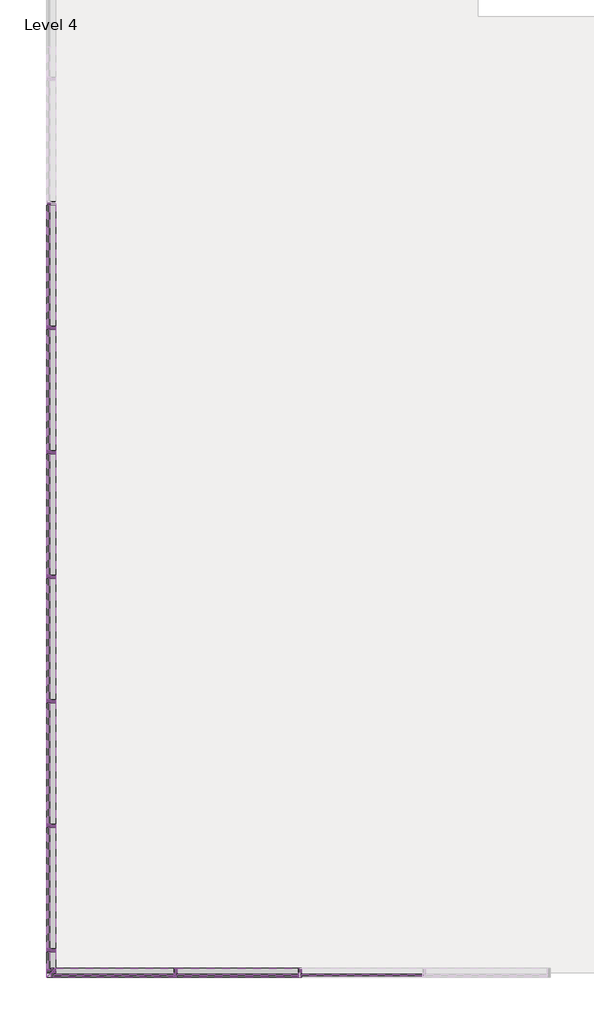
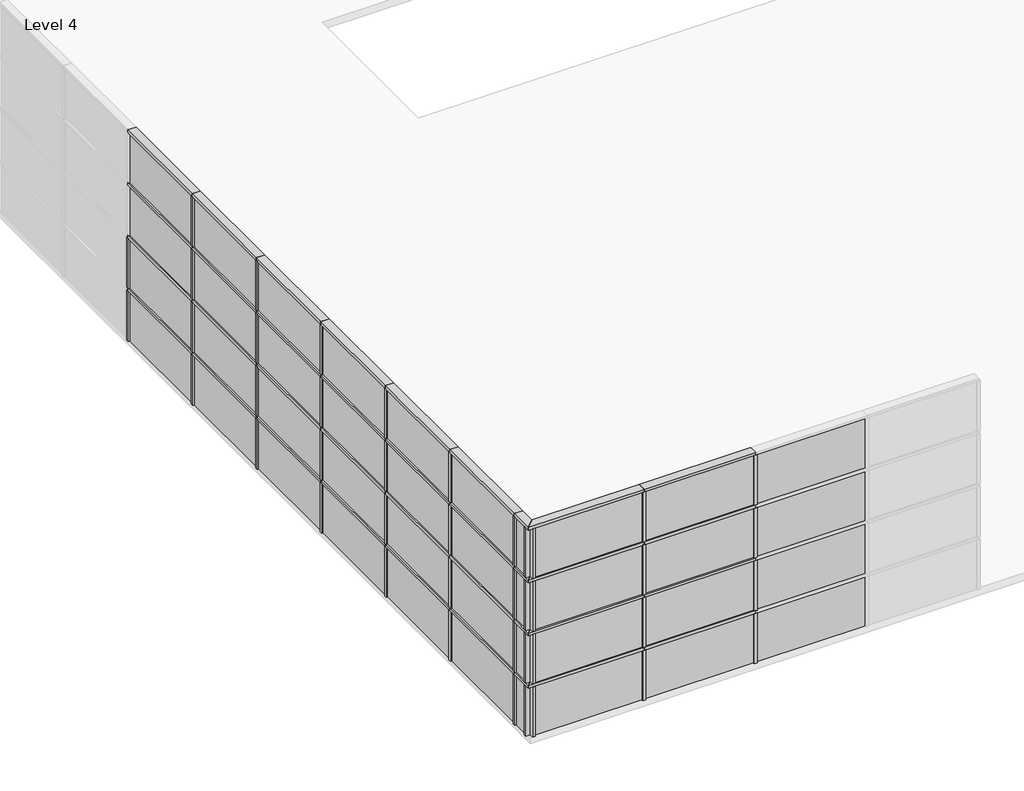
# One storey, part 1 of 5: 78 members, 40 plates.
"""IFC4 building model written with IfcOpenShell, lengths in millimetres."""

from ifc_helpers import new_model, si_unit, origin, place, context, project, spatial, transform, mapped, element, save
from components import rectangular_mullion_50_x_150mm_a053b0ca, rectangular_mullion_50_x_150mm_3a148f0f, rectangular_mullion_50_x_150mm_12a430f9, rectangular_mullion_50_x_150mm_cc09da6b, rectangular_mullion_50_x_150mm_947845bb, system_panel_glazed_751a585c, system_panel_glazed_08de6f5f, system_panel_glazed_9a47c754

model = new_model("IFC4")

# Units and contexts
model_context = context("Model", 3, world=origin())
ifc_project = project(units=[si_unit("LENGTHUNIT", "METRE", prefix="MILLI")], contexts=[model_context])

# Site, building, storey
site = spatial("IfcSite", under=ifc_project)
building = spatial("IfcBuilding", under=site)
storey = spatial("IfcBuildingStorey", under=building, Name="Level 4", Elevation=12000.0)

# Members
placement = place(None, origin())
rectangular_mullion_50_x_150mm_shape = rectangular_mullion_50_x_150mm_a053b0ca(model_context)
element("IfcMember", 1, ObjectType="Rectangular Mullion : 50 x 150mm", at=placement, inside=storey, context=model_context, shape_type="MappedRepresentation", body=[
    mapped(rectangular_mullion_50_x_150mm_shape, transform((-3587.173406, -21988.7417365, 12025.0), x_axis=(1.0, 0.0, 0.0), y_axis=(0.0, -1.0, 0.0), z_axis=(0.0, 0.0, -1.0))),
])
element("IfcMember", 2, ObjectType="Rectangular Mullion : 50 x 150mm", at=placement, inside=storey, context=model_context, shape_type="MappedRepresentation", body=[
    mapped(rectangular_mullion_50_x_150mm_shape, transform((-3587.173406, -21988.7417365, 13025.0), x_axis=(1.0, 0.0, 0.0), y_axis=(0.0, -1.0, 0.0), z_axis=(0.0, 0.0, -1.0))),
])
element("IfcMember", 3, ObjectType="Rectangular Mullion : 50 x 150mm", at=placement, inside=storey, context=model_context, shape_type="MappedRepresentation", body=[
    mapped(rectangular_mullion_50_x_150mm_shape, transform((-3587.173406, -21988.7417365, 14025.0), x_axis=(1.0, 0.0, 0.0), y_axis=(0.0, -1.0, 0.0), z_axis=(0.0, 0.0, -1.0))),
])
element("IfcMember", 4, ObjectType="Rectangular Mullion : 50 x 150mm", at=placement, inside=storey, context=model_context, shape_type="MappedRepresentation", body=[
    mapped(rectangular_mullion_50_x_150mm_shape, transform((-3587.173406, -21988.7417365, 15025.0), x_axis=(1.0, 0.0, 0.0), y_axis=(0.0, -1.0, 0.0), z_axis=(0.0, 0.0, -1.0))),
])
element("IfcMember", 5, ObjectType="Rectangular Mullion : 50 x 150mm", at=placement, inside=storey, context=model_context, shape_type="MappedRepresentation", body=[
    mapped(rectangular_mullion_50_x_150mm_shape, transform((-1587.173406, -21988.7417365, 12025.0), x_axis=(1.0, 0.0, 0.0), y_axis=(0.0, -1.0, 0.0), z_axis=(0.0, 0.0, -1.0))),
])
element("IfcMember", 6, ObjectType="Rectangular Mullion : 50 x 150mm", at=placement, inside=storey, context=model_context, shape_type="MappedRepresentation", body=[
    mapped(rectangular_mullion_50_x_150mm_shape, transform((-1587.173406, -21988.7417365, 13025.0), x_axis=(1.0, 0.0, 0.0), y_axis=(0.0, -1.0, 0.0), z_axis=(0.0, 0.0, -1.0))),
])
element("IfcMember", 7, ObjectType="Rectangular Mullion : 50 x 150mm", at=placement, inside=storey, context=model_context, shape_type="MappedRepresentation", body=[
    mapped(rectangular_mullion_50_x_150mm_shape, transform((-1587.173406, -21988.7417365, 14025.0), x_axis=(1.0, 0.0, 0.0), y_axis=(0.0, -1.0, 0.0), z_axis=(0.0, 0.0, -1.0))),
])
element("IfcMember", 8, ObjectType="Rectangular Mullion : 50 x 150mm", at=placement, inside=storey, context=model_context, shape_type="MappedRepresentation", body=[
    mapped(rectangular_mullion_50_x_150mm_shape, transform((-1587.173406, -21988.7417365, 15025.0), x_axis=(1.0, 0.0, 0.0), y_axis=(0.0, -1.0, 0.0), z_axis=(0.0, 0.0, -1.0))),
])
element("IfcMember", 9, ObjectType="Rectangular Mullion : 50 x 150mm", at=placement, inside=storey, context=model_context, shape_type="MappedRepresentation", body=[
    mapped(rectangular_mullion_50_x_150mm_shape, transform((-5587.173406, -9624.0160434, 12025.0), x_axis=(0.0, -1.0, 0.0), y_axis=(-1.0, 0.0, 0.0), z_axis=(0.0, 0.0, -1.0))),
])
element("IfcMember", 10, ObjectType="Rectangular Mullion : 50 x 150mm", at=placement, inside=storey, context=model_context, shape_type="MappedRepresentation", body=[
    mapped(rectangular_mullion_50_x_150mm_shape, transform((-5587.173406, -9624.0160434, 13025.0), x_axis=(0.0, -1.0, 0.0), y_axis=(-1.0, 0.0, 0.0), z_axis=(0.0, 0.0, -1.0))),
])
element("IfcMember", 11, ObjectType="Rectangular Mullion : 50 x 150mm", at=placement, inside=storey, context=model_context, shape_type="MappedRepresentation", body=[
    mapped(rectangular_mullion_50_x_150mm_shape, transform((-5587.173406, -11624.0160434, 12025.0), x_axis=(0.0, -1.0, 0.0), y_axis=(-1.0, 0.0, 0.0), z_axis=(0.0, 0.0, -1.0))),
])
element("IfcMember", 12, ObjectType="Rectangular Mullion : 50 x 150mm", at=placement, inside=storey, context=model_context, shape_type="MappedRepresentation", body=[
    mapped(rectangular_mullion_50_x_150mm_shape, transform((-5587.173406, -11624.0160434, 13025.0), x_axis=(0.0, -1.0, 0.0), y_axis=(-1.0, 0.0, 0.0), z_axis=(0.0, 0.0, -1.0))),
])
element("IfcMember", 13, ObjectType="Rectangular Mullion : 50 x 150mm", at=placement, inside=storey, context=model_context, shape_type="MappedRepresentation", body=[
    mapped(rectangular_mullion_50_x_150mm_shape, transform((-5587.173406, -11624.0160434, 14025.0), x_axis=(0.0, -1.0, 0.0), y_axis=(-1.0, 0.0, 0.0), z_axis=(0.0, 0.0, -1.0))),
])
element("IfcMember", 14, ObjectType="Rectangular Mullion : 50 x 150mm", at=placement, inside=storey, context=model_context, shape_type="MappedRepresentation", body=[
    mapped(rectangular_mullion_50_x_150mm_shape, transform((-5587.173406, -11624.0160434, 15025.0), x_axis=(0.0, -1.0, 0.0), y_axis=(-1.0, 0.0, 0.0), z_axis=(0.0, 0.0, -1.0))),
])
element("IfcMember", 15, ObjectType="Rectangular Mullion : 50 x 150mm", at=placement, inside=storey, context=model_context, shape_type="MappedRepresentation", body=[
    mapped(rectangular_mullion_50_x_150mm_shape, transform((-5587.173406, -13624.0160434, 12025.0), x_axis=(0.0, -1.0, 0.0), y_axis=(-1.0, 0.0, 0.0), z_axis=(0.0, 0.0, -0.9999999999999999))),
])
element("IfcMember", 16, ObjectType="Rectangular Mullion : 50 x 150mm", at=placement, inside=storey, context=model_context, shape_type="MappedRepresentation", body=[
    mapped(rectangular_mullion_50_x_150mm_shape, transform((-5587.173406, -13624.0160434, 13025.0), x_axis=(0.0, -1.0, 0.0), y_axis=(-1.0, 0.0, 0.0), z_axis=(0.0, 0.0, -1.0))),
])
element("IfcMember", 17, ObjectType="Rectangular Mullion : 50 x 150mm", at=placement, inside=storey, context=model_context, shape_type="MappedRepresentation", body=[
    mapped(rectangular_mullion_50_x_150mm_shape, transform((-5587.173406, -13624.0160434, 14025.0), x_axis=(0.0, -1.0, 0.0), y_axis=(-1.0, 0.0, 0.0), z_axis=(0.0, 0.0, -1.0))),
])
element("IfcMember", 18, ObjectType="Rectangular Mullion : 50 x 150mm", at=placement, inside=storey, context=model_context, shape_type="MappedRepresentation", body=[
    mapped(rectangular_mullion_50_x_150mm_shape, transform((-5587.173406, -13624.0160434, 15025.0), x_axis=(0.0, -1.0, 0.0), y_axis=(-1.0, 0.0, 0.0), z_axis=(0.0, 0.0, -1.0))),
])
element("IfcMember", 19, ObjectType="Rectangular Mullion : 50 x 150mm", at=placement, inside=storey, context=model_context, shape_type="MappedRepresentation", body=[
    mapped(rectangular_mullion_50_x_150mm_shape, transform((-5587.173406, -15624.0160434, 12025.0), x_axis=(0.0, -1.0, 0.0), y_axis=(-1.0, 0.0, 0.0), z_axis=(0.0, 0.0, -1.0))),
])
element("IfcMember", 20, ObjectType="Rectangular Mullion : 50 x 150mm", at=placement, inside=storey, context=model_context, shape_type="MappedRepresentation", body=[
    mapped(rectangular_mullion_50_x_150mm_shape, transform((-5587.173406, -15624.0160434, 13025.0), x_axis=(0.0, -1.0, 0.0), y_axis=(-1.0, 0.0, 0.0), z_axis=(0.0, 0.0, -1.0))),
])
element("IfcMember", 21, ObjectType="Rectangular Mullion : 50 x 150mm", at=placement, inside=storey, context=model_context, shape_type="MappedRepresentation", body=[
    mapped(rectangular_mullion_50_x_150mm_shape, transform((-5587.173406, -15624.0160434, 14025.0), x_axis=(0.0, -1.0, 0.0), y_axis=(-1.0, 0.0, 0.0), z_axis=(0.0, 0.0, -1.0))),
])
element("IfcMember", 22, ObjectType="Rectangular Mullion : 50 x 150mm", at=placement, inside=storey, context=model_context, shape_type="MappedRepresentation", body=[
    mapped(rectangular_mullion_50_x_150mm_shape, transform((-5587.173406, -15624.0160434, 15025.0), x_axis=(0.0, -1.0, 0.0), y_axis=(-1.0, 0.0, 0.0), z_axis=(0.0, 0.0, -1.0))),
])
element("IfcMember", 23, ObjectType="Rectangular Mullion : 50 x 150mm", at=placement, inside=storey, context=model_context, shape_type="MappedRepresentation", body=[
    mapped(rectangular_mullion_50_x_150mm_shape, transform((-5587.173406, -17624.0160434, 12025.0), x_axis=(0.0, -1.0, 0.0), y_axis=(-1.0, 0.0, 0.0), z_axis=(0.0, 0.0, -1.0))),
])
element("IfcMember", 24, ObjectType="Rectangular Mullion : 50 x 150mm", at=placement, inside=storey, context=model_context, shape_type="MappedRepresentation", body=[
    mapped(rectangular_mullion_50_x_150mm_shape, transform((-5587.173406, -17624.0160434, 13025.0), x_axis=(0.0, -1.0, 0.0), y_axis=(-1.0, 0.0, 0.0), z_axis=(0.0, 0.0, -1.0))),
])
element("IfcMember", 25, ObjectType="Rectangular Mullion : 50 x 150mm", at=placement, inside=storey, context=model_context, shape_type="MappedRepresentation", body=[
    mapped(rectangular_mullion_50_x_150mm_shape, transform((-5587.173406, -17624.0160434, 14025.0), x_axis=(0.0, -1.0, 0.0), y_axis=(-1.0, 0.0, 0.0), z_axis=(0.0, 0.0, -1.0))),
])
element("IfcMember", 26, ObjectType="Rectangular Mullion : 50 x 150mm", at=placement, inside=storey, context=model_context, shape_type="MappedRepresentation", body=[
    mapped(rectangular_mullion_50_x_150mm_shape, transform((-5587.173406, -17624.0160434, 15025.0), x_axis=(0.0, -1.0, 0.0), y_axis=(-1.0, 0.0, 0.0), z_axis=(0.0, 0.0, -1.0))),
])
element("IfcMember", 27, ObjectType="Rectangular Mullion : 50 x 150mm", at=placement, inside=storey, context=model_context, shape_type="MappedRepresentation", body=[
    mapped(rectangular_mullion_50_x_150mm_shape, transform((-5587.173406, -19624.0160434, 12025.0), x_axis=(0.0, -1.0, 0.0), y_axis=(-1.0, 0.0, 0.0), z_axis=(0.0, 0.0, -1.0))),
])
element("IfcMember", 28, ObjectType="Rectangular Mullion : 50 x 150mm", at=placement, inside=storey, context=model_context, shape_type="MappedRepresentation", body=[
    mapped(rectangular_mullion_50_x_150mm_shape, transform((-5587.173406, -19624.0160434, 13025.0), x_axis=(0.0, -1.0, 0.0), y_axis=(-1.0, 0.0, 0.0), z_axis=(0.0, 0.0, -1.0))),
])
element("IfcMember", 29, ObjectType="Rectangular Mullion : 50 x 150mm", at=placement, inside=storey, context=model_context, shape_type="MappedRepresentation", body=[
    mapped(rectangular_mullion_50_x_150mm_shape, transform((-5587.173406, -19624.0160434, 14025.0), x_axis=(0.0, -1.0, 0.0), y_axis=(-1.0, 0.0, 0.0), z_axis=(0.0, 0.0, -1.0))),
])
element("IfcMember", 30, ObjectType="Rectangular Mullion : 50 x 150mm", at=placement, inside=storey, context=model_context, shape_type="MappedRepresentation", body=[
    mapped(rectangular_mullion_50_x_150mm_shape, transform((-5587.173406, -19624.0160434, 15025.0), x_axis=(0.0, -1.0, 0.0), y_axis=(-1.0, 0.0, 0.0), z_axis=(0.0, 0.0, -1.0))),
])
element("IfcMember", 31, ObjectType="Rectangular Mullion : 50 x 150mm", at=placement, inside=storey, context=model_context, shape_type="MappedRepresentation", body=[
    mapped(rectangular_mullion_50_x_150mm_shape, transform((-5587.173406, -21624.0160434, 12025.0), x_axis=(0.0, -1.0, 0.0), y_axis=(-1.0, 0.0, 0.0), z_axis=(0.0, 0.0, -1.0))),
])
element("IfcMember", 32, ObjectType="Rectangular Mullion : 50 x 150mm", at=placement, inside=storey, context=model_context, shape_type="MappedRepresentation", body=[
    mapped(rectangular_mullion_50_x_150mm_shape, transform((-5587.173406, -21624.0160434, 13025.0), x_axis=(0.0, -1.0, 0.0), y_axis=(-1.0, 0.0, 0.0), z_axis=(0.0, 0.0, -1.0))),
])
element("IfcMember", 33, ObjectType="Rectangular Mullion : 50 x 150mm", at=placement, inside=storey, context=model_context, shape_type="MappedRepresentation", body=[
    mapped(rectangular_mullion_50_x_150mm_shape, transform((-5587.173406, -21624.0160434, 14025.0), x_axis=(0.0, -1.0, 0.0), y_axis=(-1.0, 0.0, 0.0), z_axis=(0.0, 0.0, -1.0))),
])
element("IfcMember", 34, ObjectType="Rectangular Mullion : 50 x 150mm", at=placement, inside=storey, context=model_context, shape_type="MappedRepresentation", body=[
    mapped(rectangular_mullion_50_x_150mm_shape, transform((-5587.173406, -21624.0160434, 15025.0), x_axis=(0.0, -1.0, 0.0), y_axis=(-1.0, 0.0, 0.0), z_axis=(0.0, 0.0, -1.0))),
])
rectangular_mullion_50_x_150mm_2_shape = rectangular_mullion_50_x_150mm_3a148f0f(model_context)
element("IfcMember", 35, ObjectType="Rectangular Mullion : 50 x 150mm", at=placement, inside=storey, context=model_context, shape_type="MappedRepresentation", body=[
    mapped(rectangular_mullion_50_x_150mm_2_shape, transform((-1587.173406, -21988.7417365, 13000.0), x_axis=(0.0, 0.0, 1.0), y_axis=(0.0, -1.0, 0.0), z_axis=(1.0, 0.0, 0.0))),
])
element("IfcMember", 36, ObjectType="Rectangular Mullion : 50 x 150mm", at=placement, inside=storey, context=model_context, shape_type="MappedRepresentation", body=[
    mapped(rectangular_mullion_50_x_150mm_2_shape, transform((-1587.173406, -21988.7417365, 14000.0), x_axis=(0.0, 0.0, 1.0), y_axis=(0.0, -1.0, 0.0), z_axis=(1.0, 0.0, 0.0))),
])
element("IfcMember", 37, ObjectType="Rectangular Mullion : 50 x 150mm", at=placement, inside=storey, context=model_context, shape_type="MappedRepresentation", body=[
    mapped(rectangular_mullion_50_x_150mm_2_shape, transform((-1587.173406, -21988.7417365, 15000.0), x_axis=(0.0, 0.0, 1.0), y_axis=(0.0, -1.0, 0.0), z_axis=(1.0, 0.0, 0.0))),
])
element("IfcMember", 38, ObjectType="Rectangular Mullion : 50 x 150mm", at=placement, inside=storey, context=model_context, shape_type="MappedRepresentation", body=[
    mapped(rectangular_mullion_50_x_150mm_2_shape, transform((-1587.173406, -21988.7417365, 16000.0), x_axis=(0.0, 0.0, 1.0), y_axis=(0.0, -1.0, 0.0), z_axis=(1.0, 0.0, 0.0))),
])
element("IfcMember", 39, ObjectType="Rectangular Mullion : 50 x 150mm", at=placement, inside=storey, context=model_context, shape_type="MappedRepresentation", body=[
    mapped(rectangular_mullion_50_x_150mm_2_shape, transform((-5587.173406, -11624.0160434, 13000.0), x_axis=(0.0, 0.0, 1.0), y_axis=(-1.0, 0.0, 0.0), z_axis=(0.0, -1.0, 0.0))),
])
element("IfcMember", 40, ObjectType="Rectangular Mullion : 50 x 150mm", at=placement, inside=storey, context=model_context, shape_type="MappedRepresentation", body=[
    mapped(rectangular_mullion_50_x_150mm_2_shape, transform((-5587.173406, -13624.0160434, 13000.0), x_axis=(0.0, 0.0, 1.0), y_axis=(-1.0, 0.0, 0.0), z_axis=(0.0, -1.0, 0.0))),
])
element("IfcMember", 41, ObjectType="Rectangular Mullion : 50 x 150mm", at=placement, inside=storey, context=model_context, shape_type="MappedRepresentation", body=[
    mapped(rectangular_mullion_50_x_150mm_2_shape, transform((-5587.173406, -15624.0160434, 13000.0), x_axis=(0.0, 0.0, 1.0), y_axis=(-1.0, 0.0, 0.0), z_axis=(0.0, -1.0, 0.0))),
])
element("IfcMember", 42, ObjectType="Rectangular Mullion : 50 x 150mm", at=placement, inside=storey, context=model_context, shape_type="MappedRepresentation", body=[
    mapped(rectangular_mullion_50_x_150mm_2_shape, transform((-5587.173406, -17624.0160434, 13000.0), x_axis=(0.0, 0.0, 1.0), y_axis=(-1.0, 0.0, 0.0), z_axis=(0.0, -1.0, 0.0))),
])
element("IfcMember", 43, ObjectType="Rectangular Mullion : 50 x 150mm", at=placement, inside=storey, context=model_context, shape_type="MappedRepresentation", body=[
    mapped(rectangular_mullion_50_x_150mm_2_shape, transform((-5587.173406, -19624.0160434, 13000.0), x_axis=(0.0, 0.0, 1.0), y_axis=(-1.0, 0.0, 0.0), z_axis=(0.0, -1.0, 0.0))),
])
element("IfcMember", 44, ObjectType="Rectangular Mullion : 50 x 150mm", at=placement, inside=storey, context=model_context, shape_type="MappedRepresentation", body=[
    mapped(rectangular_mullion_50_x_150mm_2_shape, transform((-5587.173406, -21624.0160434, 13000.0), x_axis=(0.0, 0.0, 1.0), y_axis=(-1.0, 0.0, 0.0), z_axis=(0.0, -1.0, 0.0))),
])
element("IfcMember", 45, ObjectType="Rectangular Mullion : 50 x 150mm", at=placement, inside=storey, context=model_context, shape_type="MappedRepresentation", body=[
    mapped(rectangular_mullion_50_x_150mm_2_shape, transform((-5587.173406, -11624.0160434, 14000.0), x_axis=(0.0, 0.0, 1.0), y_axis=(-1.0, 0.0, 0.0), z_axis=(0.0, -1.0, 0.0))),
])
element("IfcMember", 46, ObjectType="Rectangular Mullion : 50 x 150mm", at=placement, inside=storey, context=model_context, shape_type="MappedRepresentation", body=[
    mapped(rectangular_mullion_50_x_150mm_2_shape, transform((-5587.173406, -13624.0160434, 14000.0), x_axis=(0.0, 0.0, 1.0), y_axis=(-1.0, 0.0, 0.0), z_axis=(0.0, -1.0, 0.0))),
])
element("IfcMember", 47, ObjectType="Rectangular Mullion : 50 x 150mm", at=placement, inside=storey, context=model_context, shape_type="MappedRepresentation", body=[
    mapped(rectangular_mullion_50_x_150mm_2_shape, transform((-5587.173406, -15624.0160434, 14000.0), x_axis=(0.0, 0.0, 1.0), y_axis=(-1.0, 0.0, 0.0), z_axis=(0.0, -1.0, 0.0))),
])
element("IfcMember", 48, ObjectType="Rectangular Mullion : 50 x 150mm", at=placement, inside=storey, context=model_context, shape_type="MappedRepresentation", body=[
    mapped(rectangular_mullion_50_x_150mm_2_shape, transform((-5587.173406, -17624.0160434, 14000.0), x_axis=(0.0, 0.0, 1.0), y_axis=(-1.0, 0.0, 0.0), z_axis=(0.0, -1.0, 0.0))),
])
element("IfcMember", 49, ObjectType="Rectangular Mullion : 50 x 150mm", at=placement, inside=storey, context=model_context, shape_type="MappedRepresentation", body=[
    mapped(rectangular_mullion_50_x_150mm_2_shape, transform((-5587.173406, -19624.0160434, 14000.0), x_axis=(0.0, 0.0, 1.0), y_axis=(-1.0, 0.0, 0.0), z_axis=(0.0, -1.0, 0.0))),
])
element("IfcMember", 50, ObjectType="Rectangular Mullion : 50 x 150mm", at=placement, inside=storey, context=model_context, shape_type="MappedRepresentation", body=[
    mapped(rectangular_mullion_50_x_150mm_2_shape, transform((-5587.173406, -21624.0160434, 14000.0), x_axis=(0.0, 0.0, 1.0), y_axis=(-1.0, 0.0, 0.0), z_axis=(0.0, -1.0, 0.0))),
])
element("IfcMember", 51, ObjectType="Rectangular Mullion : 50 x 150mm", at=placement, inside=storey, context=model_context, shape_type="MappedRepresentation", body=[
    mapped(rectangular_mullion_50_x_150mm_2_shape, transform((-5587.173406, -11624.0160434, 15000.0), x_axis=(0.0, 0.0, 1.0), y_axis=(-1.0, 0.0, 0.0), z_axis=(0.0, -1.0, 0.0))),
])
element("IfcMember", 52, ObjectType="Rectangular Mullion : 50 x 150mm", at=placement, inside=storey, context=model_context, shape_type="MappedRepresentation", body=[
    mapped(rectangular_mullion_50_x_150mm_2_shape, transform((-5587.173406, -13624.0160434, 15000.0), x_axis=(0.0, 0.0, 1.0), y_axis=(-1.0, 0.0, 0.0), z_axis=(0.0, -1.0, 0.0))),
])
element("IfcMember", 53, ObjectType="Rectangular Mullion : 50 x 150mm", at=placement, inside=storey, context=model_context, shape_type="MappedRepresentation", body=[
    mapped(rectangular_mullion_50_x_150mm_2_shape, transform((-5587.173406, -15624.0160434, 15000.0), x_axis=(0.0, 0.0, 1.0), y_axis=(-1.0, 0.0, 0.0), z_axis=(0.0, -1.0, 0.0))),
])
element("IfcMember", 54, ObjectType="Rectangular Mullion : 50 x 150mm", at=placement, inside=storey, context=model_context, shape_type="MappedRepresentation", body=[
    mapped(rectangular_mullion_50_x_150mm_2_shape, transform((-5587.173406, -17624.0160434, 15000.0), x_axis=(0.0, 0.0, 1.0), y_axis=(-1.0, 0.0, 0.0), z_axis=(0.0, -1.0, 0.0))),
])
element("IfcMember", 55, ObjectType="Rectangular Mullion : 50 x 150mm", at=placement, inside=storey, context=model_context, shape_type="MappedRepresentation", body=[
    mapped(rectangular_mullion_50_x_150mm_2_shape, transform((-5587.173406, -19624.0160434, 15000.0), x_axis=(0.0, 0.0, 1.0), y_axis=(-1.0, 0.0, 0.0), z_axis=(0.0, -1.0, 0.0))),
])
element("IfcMember", 56, ObjectType="Rectangular Mullion : 50 x 150mm", at=placement, inside=storey, context=model_context, shape_type="MappedRepresentation", body=[
    mapped(rectangular_mullion_50_x_150mm_2_shape, transform((-5587.173406, -21624.0160434, 15000.0), x_axis=(0.0, 0.0, 1.0), y_axis=(-1.0, 0.0, 0.0), z_axis=(0.0, -1.0, 0.0))),
])
element("IfcMember", 57, ObjectType="Rectangular Mullion : 50 x 150mm", at=placement, inside=storey, context=model_context, shape_type="MappedRepresentation", body=[
    mapped(rectangular_mullion_50_x_150mm_2_shape, transform((-5587.173406, -11624.0160434, 16000.0), x_axis=(0.0, 0.0, 1.0), y_axis=(-1.0, 0.0, 0.0), z_axis=(0.0, -1.0, 0.0))),
])
element("IfcMember", 58, ObjectType="Rectangular Mullion : 50 x 150mm", at=placement, inside=storey, context=model_context, shape_type="MappedRepresentation", body=[
    mapped(rectangular_mullion_50_x_150mm_2_shape, transform((-5587.173406, -13624.0160434, 16000.0), x_axis=(0.0, 0.0, 1.0), y_axis=(-1.0, 0.0, 0.0), z_axis=(0.0, -1.0, 0.0))),
])
element("IfcMember", 59, ObjectType="Rectangular Mullion : 50 x 150mm", at=placement, inside=storey, context=model_context, shape_type="MappedRepresentation", body=[
    mapped(rectangular_mullion_50_x_150mm_2_shape, transform((-5587.173406, -15624.0160434, 16000.0), x_axis=(0.0, 0.0, 1.0), y_axis=(-1.0, 0.0, 0.0), z_axis=(0.0, -1.0, 0.0))),
])
element("IfcMember", 60, ObjectType="Rectangular Mullion : 50 x 150mm", at=placement, inside=storey, context=model_context, shape_type="MappedRepresentation", body=[
    mapped(rectangular_mullion_50_x_150mm_2_shape, transform((-5587.173406, -17624.0160434, 16000.0), x_axis=(0.0, 0.0, 1.0), y_axis=(-1.0, 0.0, 0.0), z_axis=(0.0, -1.0, 0.0))),
])
element("IfcMember", 61, ObjectType="Rectangular Mullion : 50 x 150mm", at=placement, inside=storey, context=model_context, shape_type="MappedRepresentation", body=[
    mapped(rectangular_mullion_50_x_150mm_2_shape, transform((-5587.173406, -19624.0160434, 16000.0), x_axis=(0.0, 0.0, 1.0), y_axis=(-1.0, 0.0, 0.0), z_axis=(0.0, -1.0, 0.0))),
])
element("IfcMember", 62, ObjectType="Rectangular Mullion : 50 x 150mm", at=placement, inside=storey, context=model_context, shape_type="MappedRepresentation", body=[
    mapped(rectangular_mullion_50_x_150mm_2_shape, transform((-5587.173406, -21624.0160434, 16000.0), x_axis=(0.0, 0.0, 1.0), y_axis=(-1.0, 0.0, 0.0), z_axis=(0.0, -1.0, 0.0))),
])
rectangular_mullion_50_x_150mm_3_shape = rectangular_mullion_50_x_150mm_12a430f9(model_context)
element("IfcMember", 63, ObjectType="Rectangular Mullion : 50 x 150mm", at=placement, inside=storey, context=model_context, shape_type="MappedRepresentation", body=[
    mapped(rectangular_mullion_50_x_150mm_3_shape, transform((-5587.173406, -21988.7417365, 12975.0), x_axis=(-1.0, 0.0, 0.0), y_axis=(0.0, -1.0, 0.0), z_axis=(0.0, 0.0, 1.0))),
])
element("IfcMember", 64, ObjectType="Rectangular Mullion : 50 x 150mm", at=placement, inside=storey, context=model_context, shape_type="MappedRepresentation", body=[
    mapped(rectangular_mullion_50_x_150mm_3_shape, transform((-5587.173406, -21988.7417365, 13975.0), x_axis=(-1.0, 0.0, 0.0), y_axis=(0.0, -1.0, 0.0), z_axis=(0.0, 0.0, 1.0))),
])
element("IfcMember", 65, ObjectType="Rectangular Mullion : 50 x 150mm", at=placement, inside=storey, context=model_context, shape_type="MappedRepresentation", body=[
    mapped(rectangular_mullion_50_x_150mm_3_shape, transform((-5587.173406, -21988.7417365, 14975.0), x_axis=(-1.0, 0.0, 0.0), y_axis=(0.0, -1.0, 0.0), z_axis=(0.0, 0.0, 1.0))),
])
element("IfcMember", 66, ObjectType="Rectangular Mullion : 50 x 150mm", at=placement, inside=storey, context=model_context, shape_type="MappedRepresentation", body=[
    mapped(rectangular_mullion_50_x_150mm_3_shape, transform((-5587.173406, -21988.7417365, 15975.0), x_axis=(-1.0, 0.0, 0.0), y_axis=(0.0, -1.0, 0.0), z_axis=(0.0, 0.0, 1.0))),
])
element("IfcMember", 67, ObjectType="Rectangular Mullion : 50 x 150mm", at=placement, inside=storey, context=model_context, shape_type="MappedRepresentation", body=[
    mapped(rectangular_mullion_50_x_150mm_3_shape, transform((-5587.173406, -21988.7417365, 12025.0), x_axis=(0.0, -1.0, 0.0), y_axis=(-1.0, 0.0, 0.0), z_axis=(0.0, 0.0, -1.0))),
])
element("IfcMember", 68, ObjectType="Rectangular Mullion : 50 x 150mm", at=placement, inside=storey, context=model_context, shape_type="MappedRepresentation", body=[
    mapped(rectangular_mullion_50_x_150mm_3_shape, transform((-5587.173406, -21988.7417365, 13025.0), x_axis=(0.0, -1.0, 0.0), y_axis=(-1.0, 0.0, 0.0), z_axis=(0.0, 0.0, -1.0))),
])
element("IfcMember", 69, ObjectType="Rectangular Mullion : 50 x 150mm", at=placement, inside=storey, context=model_context, shape_type="MappedRepresentation", body=[
    mapped(rectangular_mullion_50_x_150mm_3_shape, transform((-5587.173406, -21988.7417365, 14025.0), x_axis=(0.0, -1.0, 0.0), y_axis=(-1.0, 0.0, 0.0), z_axis=(0.0, 0.0, -1.0))),
])
element("IfcMember", 70, ObjectType="Rectangular Mullion : 50 x 150mm", at=placement, inside=storey, context=model_context, shape_type="MappedRepresentation", body=[
    mapped(rectangular_mullion_50_x_150mm_3_shape, transform((-5587.173406, -21988.7417365, 15025.0), x_axis=(0.0, -1.0, 0.0), y_axis=(-1.0, 0.0, 0.0), z_axis=(0.0, 0.0, -1.0))),
])
rectangular_mullion_50_x_150mm_4_shape = rectangular_mullion_50_x_150mm_cc09da6b(model_context)
element("IfcMember", 71, ObjectType="Rectangular Mullion : 50 x 150mm", at=placement, inside=storey, context=model_context, shape_type="MappedRepresentation", body=[
    mapped(rectangular_mullion_50_x_150mm_4_shape, transform((-5587.173406, -21988.7417365, 13000.0), x_axis=(0.0, 0.0, 1.0), y_axis=(-1.0, 0.0, 0.0), z_axis=(0.0, -1.0, 0.0))),
])
element("IfcMember", 72, ObjectType="Rectangular Mullion : 50 x 150mm", at=placement, inside=storey, context=model_context, shape_type="MappedRepresentation", body=[
    mapped(rectangular_mullion_50_x_150mm_4_shape, transform((-5587.173406, -21988.7417365, 14000.0), x_axis=(0.0, 0.0, 1.0), y_axis=(-1.0, 0.0, 0.0), z_axis=(0.0, -1.0, 0.0))),
])
element("IfcMember", 73, ObjectType="Rectangular Mullion : 50 x 150mm", at=placement, inside=storey, context=model_context, shape_type="MappedRepresentation", body=[
    mapped(rectangular_mullion_50_x_150mm_4_shape, transform((-5587.173406, -21988.7417365, 15000.0), x_axis=(0.0, 0.0, 1.0), y_axis=(-1.0, 0.0, 0.0), z_axis=(0.0, -1.0, 0.0))),
])
element("IfcMember", 74, ObjectType="Rectangular Mullion : 50 x 150mm", at=placement, inside=storey, context=model_context, shape_type="MappedRepresentation", body=[
    mapped(rectangular_mullion_50_x_150mm_4_shape, transform((-5587.173406, -21988.7417365, 16000.0), x_axis=(0.0, 0.0, 1.0), y_axis=(-1.0, 0.0, 0.0), z_axis=(0.0, -1.0, 0.0))),
])
rectangular_mullion_50_x_150mm_5_shape = rectangular_mullion_50_x_150mm_947845bb(model_context)
element("IfcMember", 75, ObjectType="Rectangular Mullion : 50 x 150mm", at=placement, inside=storey, context=model_context, shape_type="MappedRepresentation", body=[
    mapped(rectangular_mullion_50_x_150mm_5_shape, transform((-3587.173406, -21988.7417365, 13000.0), x_axis=(0.0, 0.0, 1.0), y_axis=(0.0, -1.0, 0.0), z_axis=(1.0, 0.0, 0.0))),
])
element("IfcMember", 76, ObjectType="Rectangular Mullion : 50 x 150mm", at=placement, inside=storey, context=model_context, shape_type="MappedRepresentation", body=[
    mapped(rectangular_mullion_50_x_150mm_5_shape, transform((-3587.173406, -21988.7417365, 14000.0), x_axis=(0.0, 0.0, 1.0), y_axis=(0.0, -1.0, 0.0), z_axis=(1.0, 0.0, 0.0))),
])
element("IfcMember", 77, ObjectType="Rectangular Mullion : 50 x 150mm", at=placement, inside=storey, context=model_context, shape_type="MappedRepresentation", body=[
    mapped(rectangular_mullion_50_x_150mm_5_shape, transform((-3587.173406, -21988.7417365, 15000.0), x_axis=(0.0, 0.0, 1.0), y_axis=(0.0, -1.0, 0.0), z_axis=(1.0, 0.0, 0.0))),
])
element("IfcMember", 78, ObjectType="Rectangular Mullion : 50 x 150mm", at=placement, inside=storey, context=model_context, shape_type="MappedRepresentation", body=[
    mapped(rectangular_mullion_50_x_150mm_5_shape, transform((-3587.173406, -21988.7417365, 16000.0), x_axis=(0.0, 0.0, 1.0), y_axis=(0.0, -1.0, 0.0), z_axis=(1.0, 0.0, 0.0))),
])

# Plates
system_panel_glazed_shape = system_panel_glazed_751a585c(model_context)
element("IfcPlate", 79, ObjectType="System Panel : Glazed", at=placement, inside=storey, context=model_context, shape_type="MappedRepresentation", body=[
    mapped(system_panel_glazed_shape, transform((-5537.173406, -21988.7417365, 12500.0), x_axis=(0.0, 0.0, 1.0), y_axis=(0.0, -1.0, 0.0), z_axis=(1.0, 0.0, 0.0))),
])
element("IfcPlate", 80, ObjectType="System Panel : Glazed", at=placement, inside=storey, context=model_context, shape_type="MappedRepresentation", body=[
    mapped(system_panel_glazed_shape, transform((-5537.173406, -21988.7417365, 13500.0), x_axis=(0.0, 0.0, 1.0), y_axis=(0.0, -1.0, 0.0), z_axis=(1.0, 0.0, 0.0))),
])
element("IfcPlate", 81, ObjectType="System Panel : Glazed", at=placement, inside=storey, context=model_context, shape_type="MappedRepresentation", body=[
    mapped(system_panel_glazed_shape, transform((-5537.173406, -21988.7417365, 14500.0), x_axis=(0.0, 0.0, 1.0), y_axis=(0.0, -1.0, 0.0), z_axis=(1.0, 0.0, 0.0))),
])
element("IfcPlate", 82, ObjectType="System Panel : Glazed", at=placement, inside=storey, context=model_context, shape_type="MappedRepresentation", body=[
    mapped(system_panel_glazed_shape, transform((-5537.173406, -21988.7417365, 15500.0), x_axis=(0.0, 0.0, 1.0), y_axis=(0.0, -1.0, 0.0), z_axis=(1.0, 0.0, 0.0))),
])
system_panel_glazed_2_shape = system_panel_glazed_08de6f5f(model_context)
element("IfcPlate", 83, ObjectType="System Panel : Glazed", at=placement, inside=storey, context=model_context, shape_type="MappedRepresentation", body=[
    mapped(system_panel_glazed_2_shape, transform((-5587.173406, -9649.0160434, 12500.0), x_axis=(0.0, 0.0, 1.0), y_axis=(-1.0, 0.0, 0.0), z_axis=(0.0, -1.0, 0.0))),
])
element("IfcPlate", 84, ObjectType="System Panel : Glazed", at=placement, inside=storey, context=model_context, shape_type="MappedRepresentation", body=[
    mapped(system_panel_glazed_2_shape, transform((-5587.173406, -11649.0160434, 12500.0), x_axis=(0.0, 0.0, 1.0), y_axis=(-1.0, 0.0, 0.0), z_axis=(0.0, -1.0, 0.0))),
])
element("IfcPlate", 85, ObjectType="System Panel : Glazed", at=placement, inside=storey, context=model_context, shape_type="MappedRepresentation", body=[
    mapped(system_panel_glazed_2_shape, transform((-5587.173406, -13649.0160434, 12500.0), x_axis=(0.0, 0.0, 1.0), y_axis=(-1.0, 0.0, 0.0), z_axis=(0.0, -1.0, 0.0))),
])
element("IfcPlate", 86, ObjectType="System Panel : Glazed", at=placement, inside=storey, context=model_context, shape_type="MappedRepresentation", body=[
    mapped(system_panel_glazed_2_shape, transform((-5587.173406, -15649.0160434, 12500.0), x_axis=(0.0, 0.0, 1.0), y_axis=(-1.0, 0.0, 0.0), z_axis=(0.0, -1.0, 0.0))),
])
element("IfcPlate", 87, ObjectType="System Panel : Glazed", at=placement, inside=storey, context=model_context, shape_type="MappedRepresentation", body=[
    mapped(system_panel_glazed_2_shape, transform((-5587.173406, -17649.0160434, 12500.0), x_axis=(0.0, 0.0, 1.0), y_axis=(-1.0, 0.0, 0.0), z_axis=(0.0, -1.0, 0.0))),
])
element("IfcPlate", 88, ObjectType="System Panel : Glazed", at=placement, inside=storey, context=model_context, shape_type="MappedRepresentation", body=[
    mapped(system_panel_glazed_2_shape, transform((-5587.173406, -19649.0160434, 12500.0), x_axis=(0.0, 0.0, 1.0), y_axis=(-1.0, 0.0, 0.0), z_axis=(0.0, -1.0, 0.0))),
])
element("IfcPlate", 89, ObjectType="System Panel : Glazed", at=placement, inside=storey, context=model_context, shape_type="MappedRepresentation", body=[
    mapped(system_panel_glazed_2_shape, transform((-5587.173406, -9649.0160434, 13500.0), x_axis=(0.0, 0.0, 1.0), y_axis=(-1.0, 0.0, 0.0), z_axis=(0.0, -1.0, 0.0))),
])
element("IfcPlate", 90, ObjectType="System Panel : Glazed", at=placement, inside=storey, context=model_context, shape_type="MappedRepresentation", body=[
    mapped(system_panel_glazed_2_shape, transform((-5587.173406, -11649.0160434, 13500.0), x_axis=(0.0, 0.0, 1.0), y_axis=(-1.0, 0.0, 0.0), z_axis=(0.0, -1.0, 0.0))),
])
element("IfcPlate", 91, ObjectType="System Panel : Glazed", at=placement, inside=storey, context=model_context, shape_type="MappedRepresentation", body=[
    mapped(system_panel_glazed_2_shape, transform((-5587.173406, -13649.0160434, 13500.0), x_axis=(0.0, 0.0, 1.0), y_axis=(-1.0, 0.0, 0.0), z_axis=(0.0, -1.0, 0.0))),
])
element("IfcPlate", 92, ObjectType="System Panel : Glazed", at=placement, inside=storey, context=model_context, shape_type="MappedRepresentation", body=[
    mapped(system_panel_glazed_2_shape, transform((-5587.173406, -15649.0160434, 13500.0), x_axis=(0.0, 0.0, 1.0), y_axis=(-1.0, 0.0, 0.0), z_axis=(0.0, -1.0, 0.0))),
])
element("IfcPlate", 93, ObjectType="System Panel : Glazed", at=placement, inside=storey, context=model_context, shape_type="MappedRepresentation", body=[
    mapped(system_panel_glazed_2_shape, transform((-5587.173406, -17649.0160434, 13500.0), x_axis=(0.0, 0.0, 1.0), y_axis=(-1.0, 0.0, 0.0), z_axis=(0.0, -1.0, 0.0))),
])
element("IfcPlate", 94, ObjectType="System Panel : Glazed", at=placement, inside=storey, context=model_context, shape_type="MappedRepresentation", body=[
    mapped(system_panel_glazed_2_shape, transform((-5587.173406, -19649.0160434, 13500.0), x_axis=(0.0, 0.0, 1.0), y_axis=(-1.0, 0.0, 0.0), z_axis=(0.0, -1.0, 0.0))),
])
element("IfcPlate", 95, ObjectType="System Panel : Glazed", at=placement, inside=storey, context=model_context, shape_type="MappedRepresentation", body=[
    mapped(system_panel_glazed_2_shape, transform((-5587.173406, -9649.0160434, 14500.0), x_axis=(0.0, 0.0, 1.0), y_axis=(-1.0, 0.0, 0.0), z_axis=(0.0, -1.0, 0.0))),
])
element("IfcPlate", 96, ObjectType="System Panel : Glazed", at=placement, inside=storey, context=model_context, shape_type="MappedRepresentation", body=[
    mapped(system_panel_glazed_2_shape, transform((-5587.173406, -11649.0160434, 14500.0), x_axis=(0.0, 0.0, 1.0), y_axis=(-1.0, 0.0, 0.0), z_axis=(0.0, -1.0, 0.0))),
])
element("IfcPlate", 97, ObjectType="System Panel : Glazed", at=placement, inside=storey, context=model_context, shape_type="MappedRepresentation", body=[
    mapped(system_panel_glazed_2_shape, transform((-5587.173406, -13649.0160434, 14500.0), x_axis=(0.0, 0.0, 1.0), y_axis=(-1.0, 0.0, 0.0), z_axis=(0.0, -1.0, 0.0))),
])
element("IfcPlate", 98, ObjectType="System Panel : Glazed", at=placement, inside=storey, context=model_context, shape_type="MappedRepresentation", body=[
    mapped(system_panel_glazed_2_shape, transform((-5587.173406, -15649.0160434, 14500.0), x_axis=(0.0, 0.0, 1.0), y_axis=(-1.0, 0.0, 0.0), z_axis=(0.0, -1.0, 0.0))),
])
element("IfcPlate", 99, ObjectType="System Panel : Glazed", at=placement, inside=storey, context=model_context, shape_type="MappedRepresentation", body=[
    mapped(system_panel_glazed_2_shape, transform((-5587.173406, -17649.0160434, 14500.0), x_axis=(0.0, 0.0, 1.0), y_axis=(-1.0, 0.0, 0.0), z_axis=(0.0, -1.0, 0.0))),
])
element("IfcPlate", 100, ObjectType="System Panel : Glazed", at=placement, inside=storey, context=model_context, shape_type="MappedRepresentation", body=[
    mapped(system_panel_glazed_2_shape, transform((-5587.173406, -19649.0160434, 14500.0), x_axis=(0.0, 0.0, 1.0), y_axis=(-1.0, 0.0, 0.0), z_axis=(0.0, -1.0, 0.0))),
])
element("IfcPlate", 101, ObjectType="System Panel : Glazed", at=placement, inside=storey, context=model_context, shape_type="MappedRepresentation", body=[
    mapped(system_panel_glazed_2_shape, transform((-5587.173406, -9649.0160434, 15500.0), x_axis=(0.0, 0.0, 1.0), y_axis=(-1.0, 0.0, 0.0), z_axis=(0.0, -1.0, 0.0))),
])
element("IfcPlate", 102, ObjectType="System Panel : Glazed", at=placement, inside=storey, context=model_context, shape_type="MappedRepresentation", body=[
    mapped(system_panel_glazed_2_shape, transform((-5587.173406, -11649.0160434, 15500.0), x_axis=(0.0, 0.0, 1.0), y_axis=(-1.0, 0.0, 0.0), z_axis=(0.0, -1.0, 0.0))),
])
element("IfcPlate", 103, ObjectType="System Panel : Glazed", at=placement, inside=storey, context=model_context, shape_type="MappedRepresentation", body=[
    mapped(system_panel_glazed_2_shape, transform((-5587.173406, -13649.0160434, 15500.0), x_axis=(0.0, 0.0, 1.0), y_axis=(-1.0, 0.0, 0.0), z_axis=(0.0, -1.0, 0.0))),
])
element("IfcPlate", 104, ObjectType="System Panel : Glazed", at=placement, inside=storey, context=model_context, shape_type="MappedRepresentation", body=[
    mapped(system_panel_glazed_2_shape, transform((-5587.173406, -15649.0160434, 15500.0), x_axis=(0.0, 0.0, 1.0), y_axis=(-1.0, 0.0, 0.0), z_axis=(0.0, -1.0, 0.0))),
])
element("IfcPlate", 105, ObjectType="System Panel : Glazed", at=placement, inside=storey, context=model_context, shape_type="MappedRepresentation", body=[
    mapped(system_panel_glazed_2_shape, transform((-5587.173406, -17649.0160434, 15500.0), x_axis=(0.0, 0.0, 1.0), y_axis=(-1.0, 0.0, 0.0), z_axis=(0.0, -1.0, 0.0))),
])
element("IfcPlate", 106, ObjectType="System Panel : Glazed", at=placement, inside=storey, context=model_context, shape_type="MappedRepresentation", body=[
    mapped(system_panel_glazed_2_shape, transform((-5587.173406, -19649.0160434, 15500.0), x_axis=(0.0, 0.0, 1.0), y_axis=(-1.0, 0.0, 0.0), z_axis=(0.0, -1.0, 0.0))),
])
element("IfcPlate", 107, ObjectType="System Panel : Glazed", at=placement, inside=storey, context=model_context, shape_type="MappedRepresentation", body=[
    mapped(system_panel_glazed_2_shape, transform((-3562.173406, -21988.7417365, 12500.0), x_axis=(0.0, 0.0, 1.0), y_axis=(0.0, -1.0, 0.0), z_axis=(1.0, 0.0, 0.0))),
])
element("IfcPlate", 108, ObjectType="System Panel : Glazed", at=placement, inside=storey, context=model_context, shape_type="MappedRepresentation", body=[
    mapped(system_panel_glazed_2_shape, transform((-1562.173406, -21988.7417365, 12500.0), x_axis=(0.0, 0.0, 1.0), y_axis=(0.0, -1.0, 0.0), z_axis=(1.0, 0.0, 0.0))),
])
element("IfcPlate", 109, ObjectType="System Panel : Glazed", at=placement, inside=storey, context=model_context, shape_type="MappedRepresentation", body=[
    mapped(system_panel_glazed_2_shape, transform((-3562.173406, -21988.7417365, 13500.0), x_axis=(0.0, 0.0, 1.0), y_axis=(0.0, -1.0, 0.0), z_axis=(1.0, 0.0, 0.0))),
])
element("IfcPlate", 110, ObjectType="System Panel : Glazed", at=placement, inside=storey, context=model_context, shape_type="MappedRepresentation", body=[
    mapped(system_panel_glazed_2_shape, transform((-1562.173406, -21988.7417365, 13500.0), x_axis=(0.0, 0.0, 1.0), y_axis=(0.0, -1.0, 0.0), z_axis=(1.0, 0.0, 0.0))),
])
element("IfcPlate", 111, ObjectType="System Panel : Glazed", at=placement, inside=storey, context=model_context, shape_type="MappedRepresentation", body=[
    mapped(system_panel_glazed_2_shape, transform((-3562.173406, -21988.7417365, 14500.0), x_axis=(0.0, 0.0, 1.0), y_axis=(0.0, -1.0, 0.0), z_axis=(1.0, 0.0, 0.0))),
])
element("IfcPlate", 112, ObjectType="System Panel : Glazed", at=placement, inside=storey, context=model_context, shape_type="MappedRepresentation", body=[
    mapped(system_panel_glazed_2_shape, transform((-1562.173406, -21988.7417365, 14500.0), x_axis=(0.0, 0.0, 1.0), y_axis=(0.0, -1.0, 0.0), z_axis=(1.0, 0.0, 0.0))),
])
element("IfcPlate", 113, ObjectType="System Panel : Glazed", at=placement, inside=storey, context=model_context, shape_type="MappedRepresentation", body=[
    mapped(system_panel_glazed_2_shape, transform((-3562.173406, -21988.7417365, 15500.0), x_axis=(0.0, 0.0, 1.0), y_axis=(0.0, -1.0, 0.0), z_axis=(1.0, 0.0, 0.0))),
])
element("IfcPlate", 114, ObjectType="System Panel : Glazed", at=placement, inside=storey, context=model_context, shape_type="MappedRepresentation", body=[
    mapped(system_panel_glazed_2_shape, transform((-1562.173406, -21988.7417365, 15500.0), x_axis=(0.0, 0.0, 1.0), y_axis=(0.0, -1.0, 0.0), z_axis=(1.0, 0.0, 0.0))),
])
system_panel_glazed_3_shape = system_panel_glazed_9a47c754(model_context)
element("IfcPlate", 115, ObjectType="System Panel : Glazed", at=placement, inside=storey, context=model_context, shape_type="MappedRepresentation", body=[
    mapped(system_panel_glazed_3_shape, transform((-5587.173406, -21649.0160434, 12500.0), x_axis=(0.0, 0.0, 1.0), y_axis=(-1.0, 0.0, 0.0), z_axis=(0.0, -1.0, 0.0))),
])
element("IfcPlate", 116, ObjectType="System Panel : Glazed", at=placement, inside=storey, context=model_context, shape_type="MappedRepresentation", body=[
    mapped(system_panel_glazed_3_shape, transform((-5587.173406, -21649.0160434, 13500.0), x_axis=(0.0, 0.0, 1.0), y_axis=(-1.0, 0.0, 0.0), z_axis=(0.0, -1.0, 0.0))),
])
element("IfcPlate", 117, ObjectType="System Panel : Glazed", at=placement, inside=storey, context=model_context, shape_type="MappedRepresentation", body=[
    mapped(system_panel_glazed_3_shape, transform((-5587.173406, -21649.0160434, 14500.0), x_axis=(0.0, 0.0, 1.0), y_axis=(-1.0, 0.0, 0.0), z_axis=(0.0, -1.0, 0.0))),
])
element("IfcPlate", 118, ObjectType="System Panel : Glazed", at=placement, inside=storey, context=model_context, shape_type="MappedRepresentation", body=[
    mapped(system_panel_glazed_3_shape, transform((-5587.173406, -21649.0160434, 15500.0), x_axis=(0.0, 0.0, 1.0), y_axis=(-1.0, 0.0, 0.0), z_axis=(0.0, -1.0, 0.0))),
])

save(model, "model.ifc")
